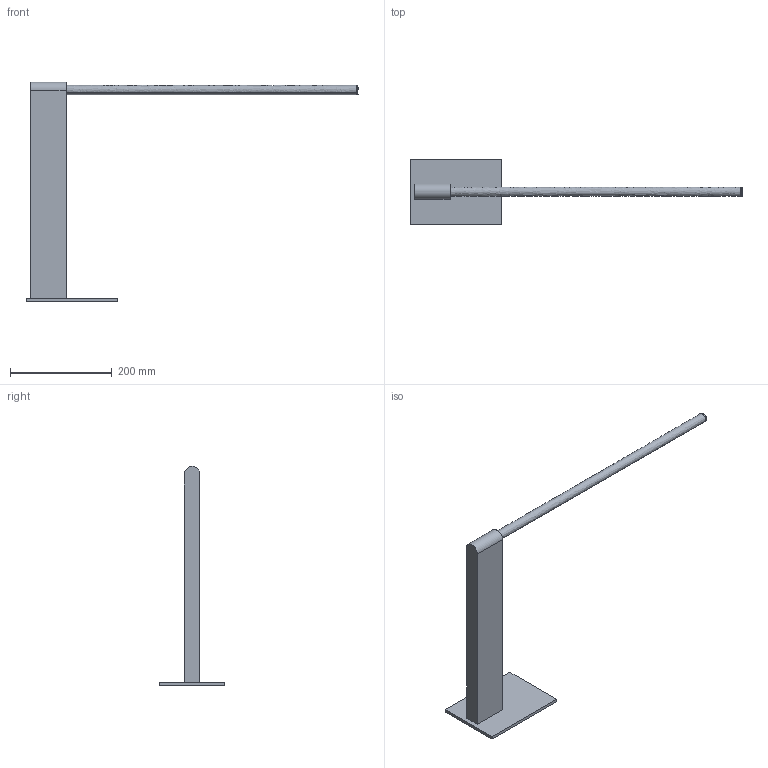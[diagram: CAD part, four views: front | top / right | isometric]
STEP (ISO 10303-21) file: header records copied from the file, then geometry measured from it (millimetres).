
FILE_DESCRIPTION(/* description */ (''),/* implementation_level */ '2;1');
FILE_NAME(/* name */ '2506',/* time_stamp */ '2021-03-31T13:00:18+02:00',/* author */ (''),/* organization */ (''),/* preprocessor_version */ 'ST-DEVELOPER v16.5',/* originating_system */ '',/* authorisation */ '');
FILE_SCHEMA (('CONFIG_CONTROL_DESIGN'));
Length unit declared in the file: millimetre
Products named in the file (1): Document
Bounding box: 654 x 130 x 431.98 mm (x, y, z)
Volume: 1068052.3 mm3; surface area: 201922 mm2
Topology: 5 solids, 5 shells, 28 faces, 54 edges, 36 vertices
Faces by surface type: plane 19, cylinder 7, bspline 2
Full cylindrical faces by diameter (mm): 18 x1
Entity records: 844 total; most frequent: CARTESIAN_POINT 372, ORIENTED_EDGE 108, EDGE_CURVE 54, VERTEX_POINT 36, DIRECTION 30, ADVANCED_FACE 28, FACE_OUTER_BOUND 28, EDGE_LOOP 28
